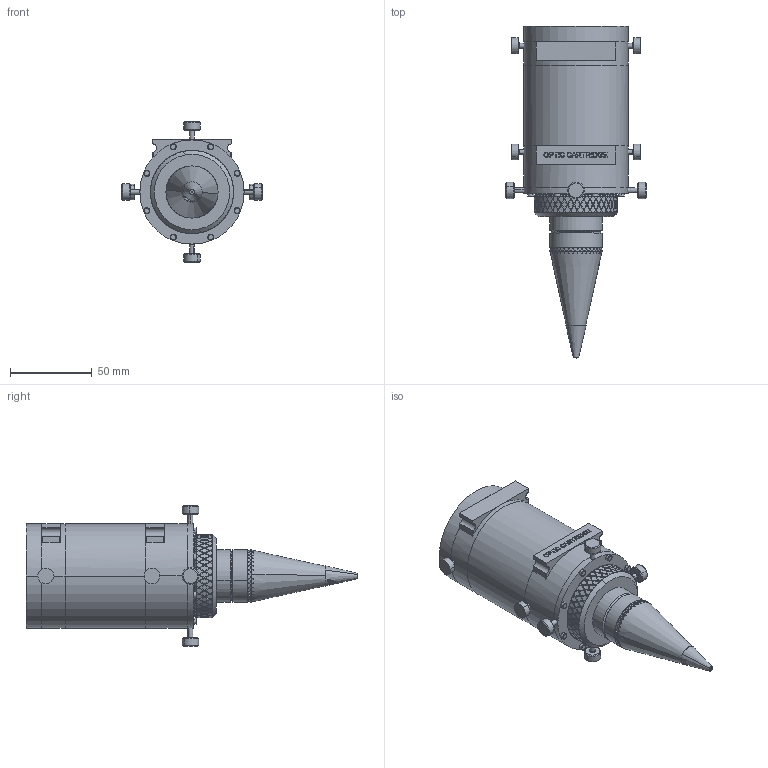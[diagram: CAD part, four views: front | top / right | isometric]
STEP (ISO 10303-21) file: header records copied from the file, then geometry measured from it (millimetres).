
FILE_DESCRIPTION (( 'STEP AP214' ), '1' );
FILE_NAME ('G2-38-38-127-191.STEP', '2017-01-05T15:30:22', ( '' ), ( '' ), 'SwSTEP 2.0', 'SolidWorks 2017', '' );
FILE_SCHEMA (( 'AUTOMOTIVE_DESIGN' ));
Products named in the file (1): G2-38-38-127-191
Bounding box: 85.56 x 202.6 x 85.56 mm (x, y, z)
Volume: 379791.5 mm3; surface area: 54953.2 mm2
Topology: 1 solids, 1 shells, 2278 faces, 5799 edges, 3573 vertices
Faces by surface type: plane 1650, cylinder 464, cone 67, bspline 65, torus 32
Entity records: 71857 total; most frequent: CARTESIAN_POINT 21978, ORIENTED_EDGE 11598, DIRECTION 8986, EDGE_CURVE 5799, VERTEX_POINT 3573, LINE 3130, VECTOR 3130, AXIS2_PLACEMENT_3D 2928
